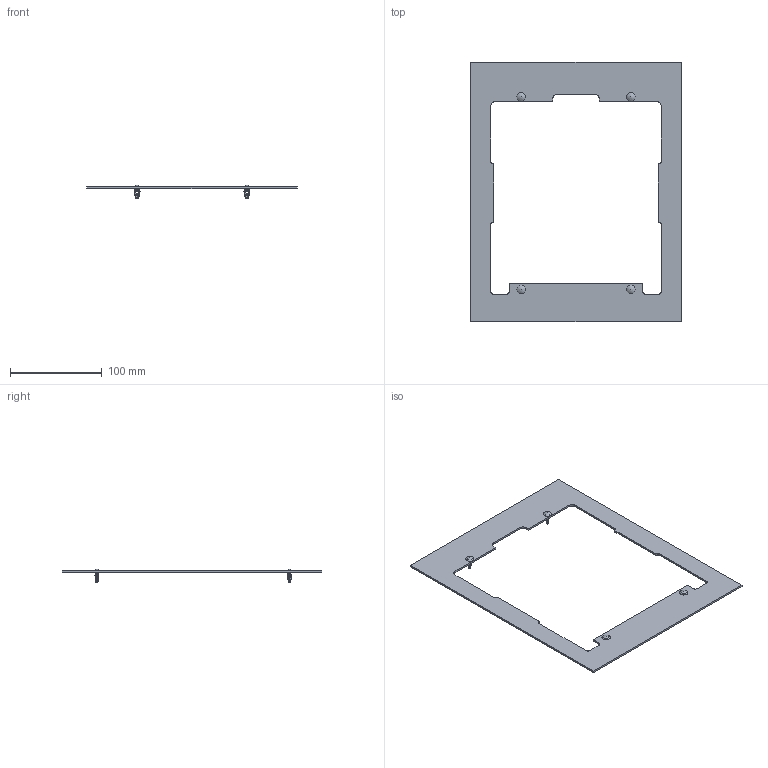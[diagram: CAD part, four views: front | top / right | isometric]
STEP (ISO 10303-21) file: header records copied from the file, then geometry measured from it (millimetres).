
FILE_DESCRIPTION(/* description */ (''),/* implementation_level */ '2;1');
FILE_NAME(/* name */ '1002351',/* time_stamp */ '2014-06-16T14:03:56+02:00',/* author */ (''),/* organization */ (''),/* preprocessor_version */ 'ST-DEVELOPER v9',/* originating_system */ 'UGS - NX 4.0',/* authorisation */ '');
FILE_SCHEMA (('CONFIG_CONTROL_DESIGN'));
Length unit declared in the file: millimetre
Products named in the file (1): MTroCFD28y2i
Bounding box: 230 x 283 x 14.86 mm (x, y, z)
Volume: 55692 mm3; surface area: 60205.7 mm2
Topology: 5 solids, 5 shells, 166 faces, 432 edges, 272 vertices
Faces by surface type: cylinder 80, plane 74, torus 8, bspline 4
Full cylindrical faces by diameter (mm): 5 x4
Entity records: 5198 total; most frequent: CARTESIAN_POINT 967, DIRECTION 886, ORIENTED_EDGE 840, EDGE_CURVE 420, AXIS2_PLACEMENT_3D 303, LINE 280, VECTOR 280, VERTEX_POINT 272
